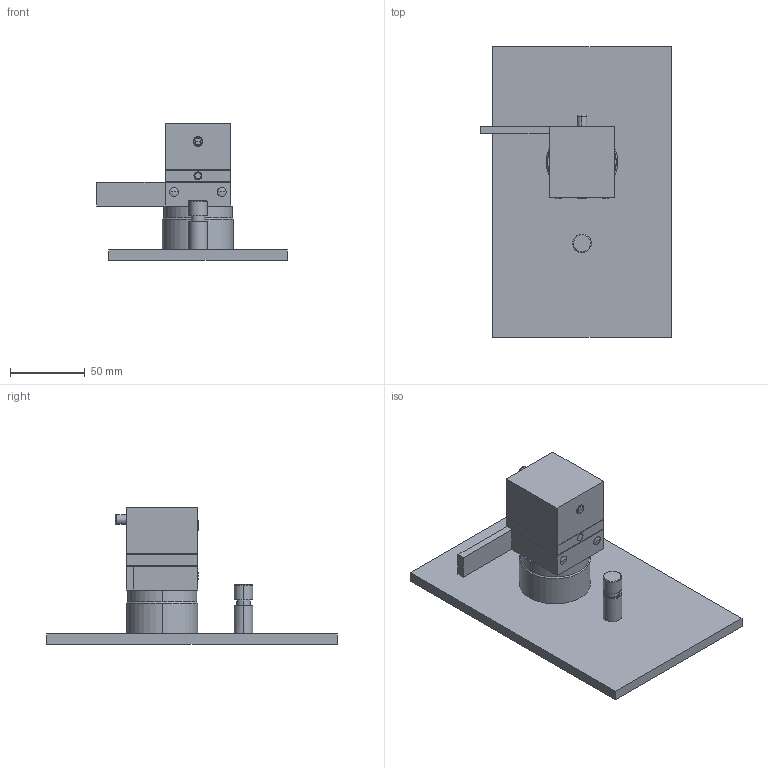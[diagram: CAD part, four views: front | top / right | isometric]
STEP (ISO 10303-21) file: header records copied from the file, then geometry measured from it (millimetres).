
FILE_DESCRIPTION((''),'2;1');
FILE_NAME('F4039X2_FILE_3D','2013-04-03T',('ivanv'),(''),'PRO/ENGINEER BY PARAMETRIC TECHNOLOGY CORPORATION, 2012130','PRO/ENGINEER BY PARAMETRIC TECHNOLOGY CORPORATION, 2012130','');
FILE_SCHEMA(('CONFIG_CONTROL_DESIGN'));
Length unit declared in the file: millimetre
Products named in the file (1): F4039X2_FILE_3D
Bounding box: 128 x 195 x 91.8 mm (x, y, z)
Volume: 307587.9 mm3; surface area: 87916.5 mm2
Topology: 3 solids, 4 shells, 275 faces, 686 edges, 436 vertices
Faces by surface type: plane 125, cylinder 100, cone 28, torus 16, sphere 6
Entity records: 10091 total; most frequent: CARTESIAN_POINT 3502, DIRECTION 1374, ORIENTED_EDGE 1358, EDGE_CURVE 679, AXIS2_PLACEMENT_3D 524, VERTEX_POINT 434, VECTOR 326, LINE 326
